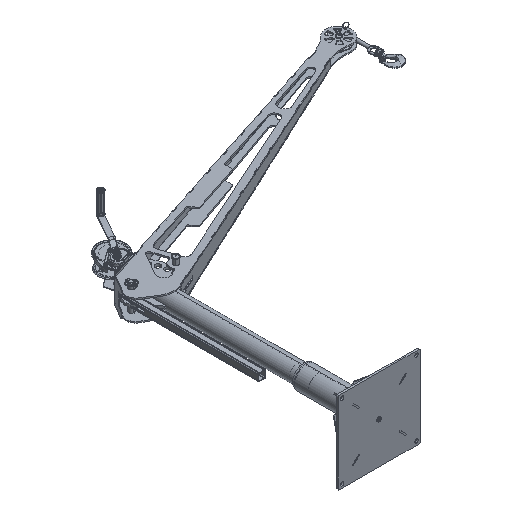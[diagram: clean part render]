
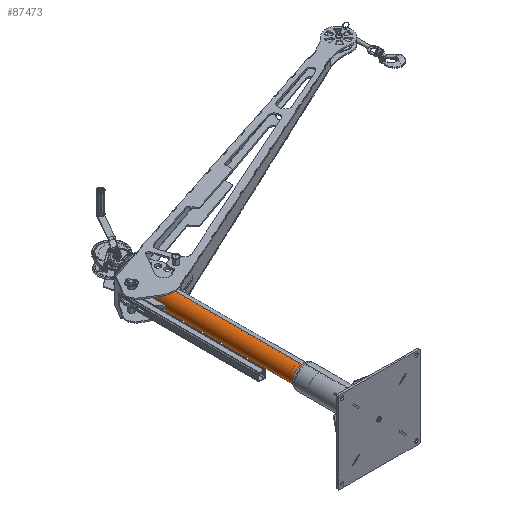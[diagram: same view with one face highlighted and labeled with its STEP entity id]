
A CAD part, isometric view. The second image highlights one B-rep face of the part: STEP entity #87473.
In plain terms, the highlighted cylindrical face has radius 44.45 mm (diameter 88.9 mm), a partial arc.
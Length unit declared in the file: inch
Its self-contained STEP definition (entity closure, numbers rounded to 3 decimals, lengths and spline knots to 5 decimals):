
#1839 = CARTESIAN_POINT ( 'NONE',  ( 0., 47.5, 0. ) ) ;
#4045 = ORIENTED_EDGE ( 'NONE', *, *, #77844, .T. ) ;
#17209 = LINE ( 'NONE', #63067, #97327 ) ;
#19138 = DIRECTION ( 'NONE',  ( 0., -1., 0. ) ) ;
#21982 = CIRCLE ( 'NONE', #65768, 1.75 ) ;
#25215 = VERTEX_POINT ( 'NONE', #102939 ) ;
#27066 = DIRECTION ( 'NONE',  ( 0., 0., 1. ) ) ;
#28072 = CARTESIAN_POINT ( 'NONE',  ( 0., 47.5, 0. ) ) ;
#33918 = DIRECTION ( 'NONE',  ( 0., 1., 0. ) ) ;
#35078 = EDGE_CURVE ( 'NONE', #80367, #25215, #17209, .T. ) ;
#35577 = EDGE_CURVE ( 'NONE', #99388, #80367, #36793, .T. ) ;
#36793 = CIRCLE ( 'NONE', #83931, 1.75 ) ;
#37020 = DIRECTION ( 'NONE',  ( 0., 0., -1. ) ) ;
#39827 = AXIS2_PLACEMENT_3D ( 'NONE', #28072, #19138, #37020 ) ;
#43865 = FACE_OUTER_BOUND ( 'NONE', #73092, .T. ) ;
#49340 = DIRECTION ( 'NONE',  ( 0., -1., 0. ) ) ;
#50892 = VERTEX_POINT ( 'NONE', #53001 ) ;
#52287 = CYLINDRICAL_SURFACE ( 'NONE', #39827, 1.75 ) ;
#53001 = CARTESIAN_POINT ( 'NONE',  ( 0., 0., 1.75 ) ) ;
#54642 = DIRECTION ( 'NONE',  ( 0., -1., 0. ) ) ;
#62552 = LINE ( 'NONE', #103144, #67495 ) ;
#63067 = CARTESIAN_POINT ( 'NONE',  ( 0., 47.5, -1.75 ) ) ;
#65768 = AXIS2_PLACEMENT_3D ( 'NONE', #75354, #99103, #91684 ) ;
#67495 = VECTOR ( 'NONE', #54642, 39.37008 ) ;
#67769 = CARTESIAN_POINT ( 'NONE',  ( 0., 47.5, -1.75 ) ) ;
#71761 = CARTESIAN_POINT ( 'NONE',  ( 0., 47.5, 1.75 ) ) ;
#72313 = EDGE_CURVE ( 'NONE', #99388, #50892, #62552, .T. ) ;
#73092 = EDGE_LOOP ( 'NONE', ( #85382, #102267, #4045, #93787 ) ) ;
#75354 = CARTESIAN_POINT ( 'NONE',  ( 0., 0., 0. ) ) ;
#77844 = EDGE_CURVE ( 'NONE', #50892, #25215, #21982, .T. ) ;
#80367 = VERTEX_POINT ( 'NONE', #67769 ) ;
#83931 = AXIS2_PLACEMENT_3D ( 'NONE', #1839, #33918, #27066 ) ;
#85382 = ORIENTED_EDGE ( 'NONE', *, *, #35577, .F. ) ;
#87473 = ADVANCED_FACE ( 'NONE', ( #43865 ), #52287, .T. ) ;
#91684 = DIRECTION ( 'NONE',  ( 0., 0., 1. ) ) ;
#93787 = ORIENTED_EDGE ( 'NONE', *, *, #35078, .F. ) ;
#97327 = VECTOR ( 'NONE', #49340, 39.37008 ) ;
#99103 = DIRECTION ( 'NONE',  ( 0., 1., 0. ) ) ;
#99388 = VERTEX_POINT ( 'NONE', #71761 ) ;
#102267 = ORIENTED_EDGE ( 'NONE', *, *, #72313, .T. ) ;
#102939 = CARTESIAN_POINT ( 'NONE',  ( 0., 0., -1.75 ) ) ;
#103144 = CARTESIAN_POINT ( 'NONE',  ( 0., 47.5, 1.75 ) ) ;
